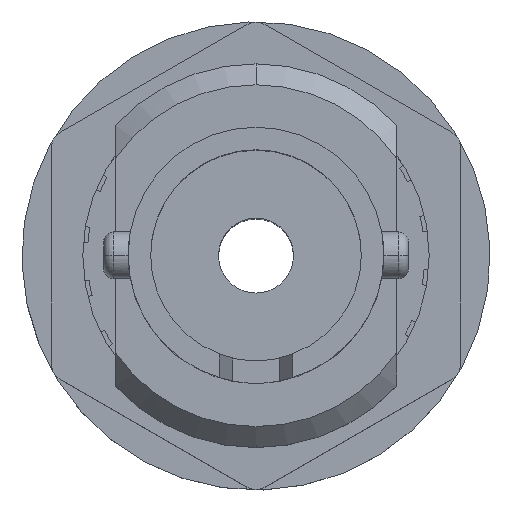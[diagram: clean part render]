
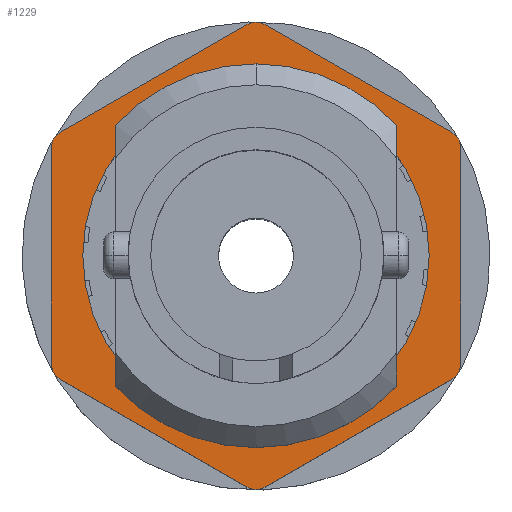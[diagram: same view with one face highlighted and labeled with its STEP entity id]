
A CAD part, top view. The second image highlights one B-rep face of the part: STEP entity #1229.
In plain terms, the highlighted planar face has unit normal (0, 0, 1) as drawn and (0, 1, 0) by its records, which use the part's own axes.
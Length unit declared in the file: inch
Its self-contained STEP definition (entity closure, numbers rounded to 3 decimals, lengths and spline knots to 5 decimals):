
#1221 = ORIENTED_EDGE ( 'NONE', *, *, #1225, .T. ) ;
#1222 = ORIENTED_EDGE ( 'NONE', *, *, #1365, .T. ) ;
#1223 = ORIENTED_EDGE ( 'NONE', *, *, #1224, .T. ) ;
#1224 = EDGE_CURVE ( 'NONE', #1265, #1312, #7494, .T. ) ;
#1225 = EDGE_CURVE ( 'NONE', #1405, #1268, #7497, .T. ) ;
#1226 = ORIENTED_EDGE ( 'NONE', *, *, #1267, .T. ) ;
#1229 = ADVANCED_FACE ( 'NONE', ( #7469, #7468 ), #7452, .F. ) ;
#1230 = EDGE_LOOP ( 'NONE', ( #1231, #1233 ) ) ;
#1231 = ORIENTED_EDGE ( 'NONE', *, *, #1232, .F. ) ;
#1232 = EDGE_CURVE ( 'NONE', #1400, #1335, #7447, .T. ) ;
#1233 = ORIENTED_EDGE ( 'NONE', *, *, #1337, .F. ) ;
#1234 = EDGE_LOOP ( 'NONE', ( #1380, #1381, #1388, #1389, #1391, #1376, #1378, #1222, #1374, #1221, #1226, #1223 ) ) ;
#1240 = VERTEX_POINT ( 'NONE', #7487 ) ;
#1244 = EDGE_CURVE ( 'NONE', #1245, #1260, #7484, .T. ) ;
#1245 = VERTEX_POINT ( 'NONE', #7476 ) ;
#1254 = VERTEX_POINT ( 'NONE', #7500 ) ;
#1255 = VERTEX_POINT ( 'NONE', #7499 ) ;
#1260 = VERTEX_POINT ( 'NONE', #7571 ) ;
#1265 = VERTEX_POINT ( 'NONE', #7563 ) ;
#1267 = EDGE_CURVE ( 'NONE', #1268, #1265, #7646, .T. ) ;
#1268 = VERTEX_POINT ( 'NONE', #7642 ) ;
#1309 = VERTEX_POINT ( 'NONE', #7614 ) ;
#1311 = EDGE_CURVE ( 'NONE', #1309, #1312, #7721, .T. ) ;
#1312 = VERTEX_POINT ( 'NONE', #7717 ) ;
#1314 = EDGE_CURVE ( 'NONE', #1315, #1405, #7716, .T. ) ;
#1315 = VERTEX_POINT ( 'NONE', #7712 ) ;
#1335 = VERTEX_POINT ( 'NONE', #7583 ) ;
#1337 = EDGE_CURVE ( 'NONE', #1335, #1400, #7581, .T. ) ;
#1365 = EDGE_CURVE ( 'NONE', #1254, #1315, #7692, .T. ) ;
#1374 = ORIENTED_EDGE ( 'NONE', *, *, #1314, .T. ) ;
#1376 = ORIENTED_EDGE ( 'NONE', *, *, #1377, .T. ) ;
#1377 = EDGE_CURVE ( 'NONE', #1245, #1255, #7660, .T. ) ;
#1378 = ORIENTED_EDGE ( 'NONE', *, *, #1387, .F. ) ;
#1380 = ORIENTED_EDGE ( 'NONE', *, *, #1311, .F. ) ;
#1381 = ORIENTED_EDGE ( 'NONE', *, *, #1382, .T. ) ;
#1382 = EDGE_CURVE ( 'NONE', #1309, #1399, #7737, .T. ) ;
#1384 = EDGE_CURVE ( 'NONE', #1240, #1399, #7727, .T. ) ;
#1387 = EDGE_CURVE ( 'NONE', #1254, #1255, #7773, .T. ) ;
#1388 = ORIENTED_EDGE ( 'NONE', *, *, #1384, .F. ) ;
#1389 = ORIENTED_EDGE ( 'NONE', *, *, #1390, .T. ) ;
#1390 = EDGE_CURVE ( 'NONE', #1240, #1260, #7774, .T. ) ;
#1391 = ORIENTED_EDGE ( 'NONE', *, *, #1244, .F. ) ;
#1399 = VERTEX_POINT ( 'NONE', #7772 ) ;
#1400 = VERTEX_POINT ( 'NONE', #7771 ) ;
#1405 = VERTEX_POINT ( 'NONE', #7791 ) ;
#7443 = DIRECTION ( 'NONE',  ( 0., 0., 1. ) ) ;
#7444 = DIRECTION ( 'NONE',  ( 0., 1., 0. ) ) ;
#7445 = CARTESIAN_POINT ( 'NONE',  ( 0., 0.1, 0. ) ) ;
#7446 = AXIS2_PLACEMENT_3D ( 'NONE', #7445, #7444, #7443 ) ;
#7447 = CIRCLE ( 'NONE', #7446, 0.185 ) ;
#7448 = DIRECTION ( 'NONE',  ( 0., 0., -1. ) ) ;
#7449 = DIRECTION ( 'NONE',  ( 0., -1., 0. ) ) ;
#7450 = CARTESIAN_POINT ( 'NONE',  ( -0.37889, 0.1, 0.21875 ) ) ;
#7451 = AXIS2_PLACEMENT_3D ( 'NONE', #7450, #7449, #7448 ) ;
#7452 = PLANE ( 'NONE',  #7451 ) ;
#7457 = DIRECTION ( 'NONE',  ( 0., 0., -1. ) ) ;
#7458 = DIRECTION ( 'NONE',  ( 0., 1., 0. ) ) ;
#7459 = CARTESIAN_POINT ( 'NONE',  ( -0.2295, 0.1, 0. ) ) ;
#7468 = FACE_OUTER_BOUND ( 'NONE', #1234, .T. ) ;
#7469 = FACE_BOUND ( 'NONE', #1230, .T. ) ;
#7476 = CARTESIAN_POINT ( 'NONE',  ( 0.13207, 0.1, -0.20875 ) ) ;
#7477 = DIRECTION ( 'NONE',  ( 0.5, 0., 0.866 ) ) ;
#7478 = VECTOR ( 'NONE', #7477, 39.37008 ) ;
#7479 = CARTESIAN_POINT ( 'NONE',  ( 0.1263, 0.1, -0.21875 ) ) ;
#7484 = LINE ( 'NONE', #7479, #7478 ) ;
#7487 = CARTESIAN_POINT ( 'NONE',  ( 0.24682, 0.1, 0.01 ) ) ;
#7491 = DIRECTION ( 'NONE',  ( 0., 1., 0. ) ) ;
#7492 = CARTESIAN_POINT ( 'NONE',  ( -0.11475, 0.1, 0.19875 ) ) ;
#7493 = AXIS2_PLACEMENT_3D ( 'NONE', #7492, #7491, #7509 ) ;
#7494 = CIRCLE ( 'NONE', #7493, 0.02 ) ;
#7496 = AXIS2_PLACEMENT_3D ( 'NONE', #7459, #7458, #7457 ) ;
#7497 = CIRCLE ( 'NONE', #7496, 0.02 ) ;
#7499 = CARTESIAN_POINT ( 'NONE',  ( 0.11475, 0.1, -0.21875 ) ) ;
#7500 = CARTESIAN_POINT ( 'NONE',  ( -0.11475, 0.1, -0.21875 ) ) ;
#7509 = DIRECTION ( 'NONE',  ( 0., 0., -1. ) ) ;
#7563 = CARTESIAN_POINT ( 'NONE',  ( -0.13207, 0.1, 0.20875 ) ) ;
#7571 = CARTESIAN_POINT ( 'NONE',  ( 0.24682, 0.1, -0.01 ) ) ;
#7577 = DIRECTION ( 'NONE',  ( 0., 0., 1. ) ) ;
#7578 = DIRECTION ( 'NONE',  ( 0., 1., 0. ) ) ;
#7579 = CARTESIAN_POINT ( 'NONE',  ( 0., 0.1, 0. ) ) ;
#7580 = AXIS2_PLACEMENT_3D ( 'NONE', #7579, #7578, #7577 ) ;
#7581 = CIRCLE ( 'NONE', #7580, 0.185 ) ;
#7583 = CARTESIAN_POINT ( 'NONE',  ( 0., 0.1, -0.185 ) ) ;
#7614 = CARTESIAN_POINT ( 'NONE',  ( 0.11475, 0.1, 0.21875 ) ) ;
#7642 = CARTESIAN_POINT ( 'NONE',  ( -0.24682, 0.1, 0.01 ) ) ;
#7643 = DIRECTION ( 'NONE',  ( 0.5, 0., 0.866 ) ) ;
#7644 = VECTOR ( 'NONE', #7643, 39.37008 ) ;
#7645 = CARTESIAN_POINT ( 'NONE',  ( -0.25259, 0.1, 0. ) ) ;
#7646 = LINE ( 'NONE', #7645, #7644 ) ;
#7656 = DIRECTION ( 'NONE',  ( 0., 0., -1. ) ) ;
#7657 = DIRECTION ( 'NONE',  ( 0., 1., 0. ) ) ;
#7658 = CARTESIAN_POINT ( 'NONE',  ( 0.11475, 0.1, -0.19875 ) ) ;
#7659 = AXIS2_PLACEMENT_3D ( 'NONE', #7658, #7657, #7656 ) ;
#7660 = CIRCLE ( 'NONE', #7659, 0.02 ) ;
#7688 = DIRECTION ( 'NONE',  ( 0., 0., -1. ) ) ;
#7689 = DIRECTION ( 'NONE',  ( 0., 1., 0. ) ) ;
#7690 = CARTESIAN_POINT ( 'NONE',  ( -0.11475, 0.1, -0.19875 ) ) ;
#7691 = AXIS2_PLACEMENT_3D ( 'NONE', #7690, #7689, #7688 ) ;
#7692 = CIRCLE ( 'NONE', #7691, 0.02 ) ;
#7712 = CARTESIAN_POINT ( 'NONE',  ( -0.13207, 0.1, -0.20875 ) ) ;
#7713 = DIRECTION ( 'NONE',  ( -0.5, 0., 0.866 ) ) ;
#7714 = VECTOR ( 'NONE', #7713, 39.37008 ) ;
#7715 = CARTESIAN_POINT ( 'NONE',  ( -0.1263, 0.1, -0.21875 ) ) ;
#7716 = LINE ( 'NONE', #7715, #7714 ) ;
#7717 = CARTESIAN_POINT ( 'NONE',  ( -0.11475, 0.1, 0.21875 ) ) ;
#7718 = DIRECTION ( 'NONE',  ( -1., 0., 0. ) ) ;
#7719 = VECTOR ( 'NONE', #7718, 39.37008 ) ;
#7720 = CARTESIAN_POINT ( 'NONE',  ( 0.1263, 0.1, 0.21875 ) ) ;
#7721 = LINE ( 'NONE', #7720, #7719 ) ;
#7726 = CARTESIAN_POINT ( 'NONE',  ( 0.11475, 0.1, 0.19875 ) ) ;
#7727 = LINE ( 'NONE', #7767, #7798 ) ;
#7737 = CIRCLE ( 'NONE', #7739, 0.02 ) ;
#7739 = AXIS2_PLACEMENT_3D ( 'NONE', #7726, #7785, #7793 ) ;
#7758 = DIRECTION ( 'NONE',  ( 1., 0., 0. ) ) ;
#7766 = DIRECTION ( 'NONE',  ( -0.5, 0., 0.866 ) ) ;
#7767 = CARTESIAN_POINT ( 'NONE',  ( 0.25259, 0.1, 0. ) ) ;
#7771 = CARTESIAN_POINT ( 'NONE',  ( 0., 0.1, 0.185 ) ) ;
#7772 = CARTESIAN_POINT ( 'NONE',  ( 0.13207, 0.1, 0.20875 ) ) ;
#7773 = LINE ( 'NONE', #7784, #7783 ) ;
#7774 = CIRCLE ( 'NONE', #7806, 0.02 ) ;
#7775 = DIRECTION ( 'NONE',  ( 0., 0., -1. ) ) ;
#7776 = DIRECTION ( 'NONE',  ( 0., 1., 0. ) ) ;
#7783 = VECTOR ( 'NONE', #7758, 39.37008 ) ;
#7784 = CARTESIAN_POINT ( 'NONE',  ( -0.1263, 0.1, -0.21875 ) ) ;
#7785 = DIRECTION ( 'NONE',  ( 0., 1., 0. ) ) ;
#7791 = CARTESIAN_POINT ( 'NONE',  ( -0.24682, 0.1, -0.01 ) ) ;
#7793 = DIRECTION ( 'NONE',  ( 0., 0., -1. ) ) ;
#7798 = VECTOR ( 'NONE', #7766, 39.37008 ) ;
#7805 = CARTESIAN_POINT ( 'NONE',  ( 0.2295, 0.1, 0. ) ) ;
#7806 = AXIS2_PLACEMENT_3D ( 'NONE', #7805, #7776, #7775 ) ;
